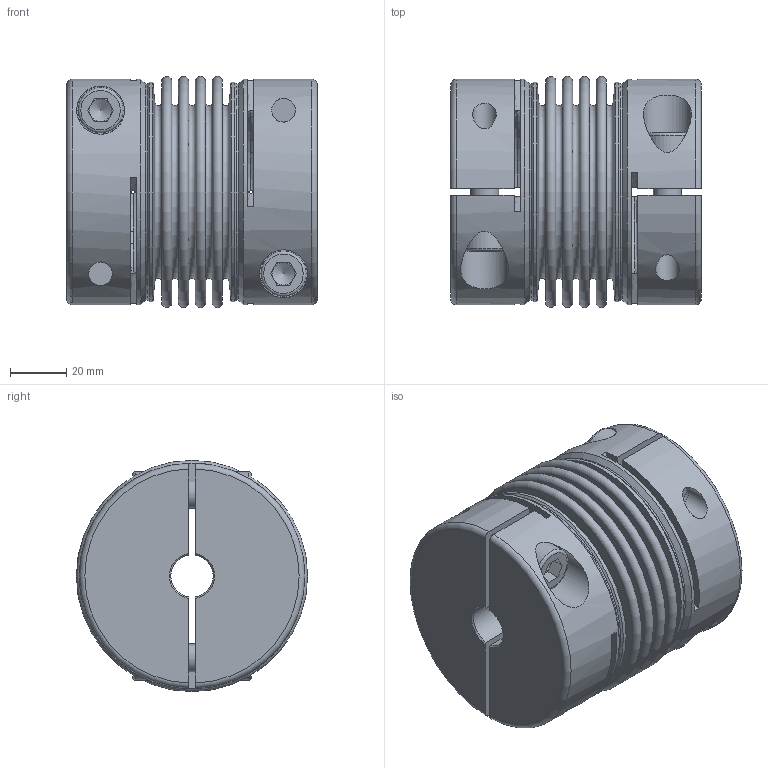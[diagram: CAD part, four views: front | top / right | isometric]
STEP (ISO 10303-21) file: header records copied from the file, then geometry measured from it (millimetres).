
FILE_DESCRIPTION(/* description */ ('Unknown','CAx-IF Rec.Pracs.---Representation and Presentation of Product Manufacturing Information (PMI)---4.0---2014-10-13','CAx-IF Rec.Pracs.---3D Tessellated Geometry---0.4---2014-09-14','2;1'),/* implementation_level */ '2;1');
FILE_NAME(/* name */ 'KG-HS 220-4W',/* time_stamp */ '2022-11-25T11:48:53+01:00',/* author */ ('Unknown'),/* organization */ ('Unknown'),/* preprocessor_version */ 'ST-DEVELOPER v18.102',/* originating_system */ 'Solid Edge',/* authorisation */ 'Unknown');
FILE_SCHEMA (('AP242_MANAGED_MODEL_BASED_3D_ENGINEERING_MIM_LF { 1 0 10303 442 1 1 4 }'));
Length unit declared in the file: millimetre
Products named in the file (1): 04824490
Bounding box: 88.88 x 82 x 82 mm (x, y, z)
Volume: 241391.3 mm3; surface area: 107524.3 mm2
Topology: 1 solids, 1 shells, 202 faces, 472 edges, 304 vertices
Faces by surface type: plane 106, cylinder 42, torus 34, cone 20
Full cylindrical faces by diameter (mm): 8.376 x8, 10 x4, 10.5 x4, 16 x4, 17 x4, 76.8 x2, 78 x2, 80 x2
Entity records: 7339 total; most frequent: CARTESIAN_POINT 1642, DIRECTION 912, ORIENTED_EDGE 752, AXIS2_PLACEMENT_3D 384, EDGE_CURVE 376, FACE_BOUND 316, EDGE_LOOP 312, VERTEX_POINT 280
